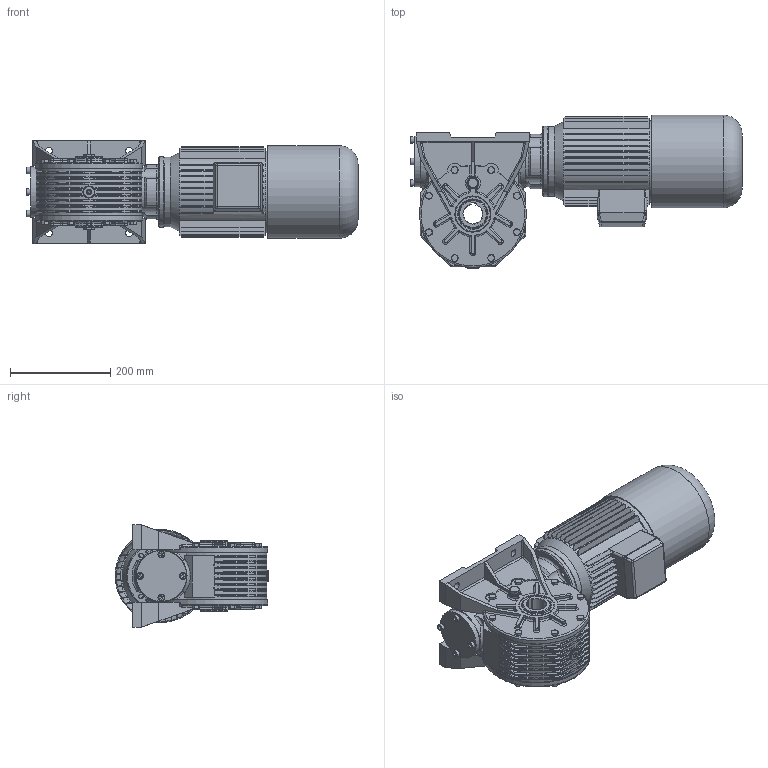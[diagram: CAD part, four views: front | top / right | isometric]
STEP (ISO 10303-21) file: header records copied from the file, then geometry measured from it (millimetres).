
FILE_DESCRIPTION((''),'2;1');
FILE_NAME('Y:\Archivi Inventor\Prog_01\GRAND_50\complessivi\Figurini\MRV50 sito\90l_autofrenante\mrv50_P1_90L_B14.stp','2013-02-08T10:23:05',('tech3'),(''),'Autodesk Inventor 2013','Autodesk Inventor 2013','');
FILE_SCHEMA(('AUTOMOTIVE_DESIGN { 1 0 10303 214 1 1 1 1 }'));
Length unit declared in the file: millimetre
Products named in the file (18): mrv50_90s_90l_b14; mrv50_fig; Figurino_carcassa_MRV50; 0105028; 0105029; figurino_corona_MRV50; figurino_0105010; Guarnizione 3_8 GAS; Tappo 3_8 GAS_esagn_incsst; Tappo3_8 GAS; figurino_0105009; ISO 4017 M8 x 20; 55_70_8; UNI 6592 8.4 x 14; UNI 5931  M 8 x  25; 0105006; DIN EN ISO 4762 M8 x 25; motori B14 brake 90L
Assembly tree (50 placements, depth 3):
  mrv50_90s_90l_b14
    mrv50_fig
      Figurino_carcassa_MRV50
      0105028  x2
      0105029  x2
      figurino_corona_MRV50
      figurino_0105010  x2
      Guarnizione 3_8 GAS  x4
      Tappo 3_8 GAS_esagn_incsst  x2
      Tappo3_8 GAS  x2
      figurino_0105009
      ISO 4017 M8 x 20  x16
      55_70_8  x2
      UNI 6592 8.4 x 14  x4
      UNI 5931  M 8 x  25  x4
    0105006
    DIN EN ISO 4762 M8 x 25  x4
    motori B14 brake 90L
Bounding box: 661.8 x 306.18 x 203.7 mm (x, y, z)
Volume: 11316728.5 mm3; surface area: 1362872.2 mm2
Topology: 62 solids, 64 shells, 2125 faces, 5049 edges, 2996 vertices
Faces by surface type: plane 917, cylinder 619, cone 228, bspline 162, torus 161, sphere 38
Full cylindrical faces by diameter (mm): 2 x2, 5 x1, 6.647 x28, 8 x26, 8.4 x4, 8.5 x48, 9 x4, 11.63 x16, 13 x12, 13.046 x2, 14 x12, 14.95 x4, 16.3 x4, 16.5 x2, 22 x8, 24 x3, 55 x1, 60 x1, 66.4 x2, 69 x2, 70 x6, 72 x4, 73 x2, 75 x1, 95 x1, 99.5 x2, 101 x1, 102 x2, 140 x2, 162.8 x1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
Entity records: 49780 total; most frequent: CARTESIAN_POINT 16579, DIRECTION 6850, ORIENTED_EDGE 6340, EDGE_CURVE 3170, AXIS2_PLACEMENT_3D 2681, VERTEX_POINT 2036, EDGE_LOOP 1794, VECTOR 1488
